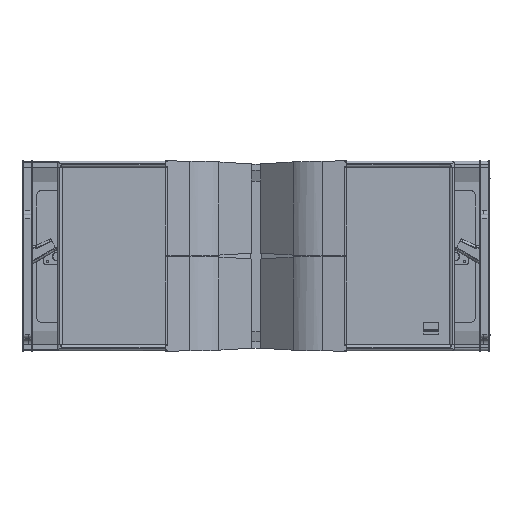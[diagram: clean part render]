
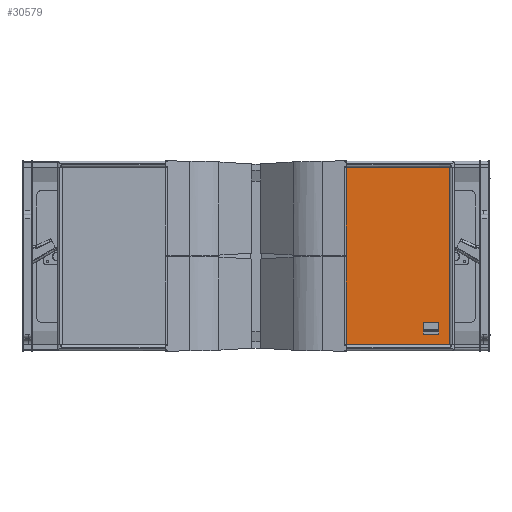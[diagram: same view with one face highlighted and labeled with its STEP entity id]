
A CAD part, top view. The second image highlights one B-rep face of the part: STEP entity #30579.
In plain terms, the highlighted planar face has unit normal (0, 0, 1) as drawn and (0, -1, 0) by its records, which use the part's own axes.
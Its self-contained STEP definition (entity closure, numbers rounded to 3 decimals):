
#1198 = DIRECTION ( 'NONE',  ( 0., 0., 1. ) ) ;
#1199 = VECTOR ( 'NONE', #1198, 1000. ) ;
#1200 = CARTESIAN_POINT ( 'NONE',  ( 759.196, 27.5, 366.616 ) ) ;
#1201 = LINE ( 'NONE', #1200, #1199 ) ;
#1202 = CARTESIAN_POINT ( 'NONE',  ( 1005., 27.5, 366.616 ) ) ;
#1203 = DIRECTION ( 'NONE',  ( 0., 0., -1. ) ) ;
#1204 = VECTOR ( 'NONE', #1203, 1000. ) ;
#1205 = CARTESIAN_POINT ( 'NONE',  ( 1005., 27.5, 366.616 ) ) ;
#1206 = LINE ( 'NONE', #1205, #1204 ) ;
#1239 = DIRECTION ( 'NONE',  ( 0., 0., -1. ) ) ;
#1240 = DIRECTION ( 'NONE',  ( 0., -1., 0. ) ) ;
#1241 = CARTESIAN_POINT ( 'NONE',  ( 884.598, 27.5, 158.158 ) ) ;
#1242 = AXIS2_PLACEMENT_3D ( 'NONE', #1241, #1240, #1239 ) ;
#1243 = PLANE ( 'NONE',  #1242 ) ;
#1244 = FACE_OUTER_BOUND ( 'NONE', #30570, .T. ) ;
#1245 = DIRECTION ( 'NONE',  ( -1., 0., 0. ) ) ;
#1246 = VECTOR ( 'NONE', #1245, 1000. ) ;
#1247 = CARTESIAN_POINT ( 'NONE',  ( 1005., 27.5, -50.3 ) ) ;
#1248 = LINE ( 'NONE', #1247, #1246 ) ;
#1249 = CARTESIAN_POINT ( 'NONE',  ( 1005., 27.5, -50.3 ) ) ;
#1250 = CARTESIAN_POINT ( 'NONE',  ( 759.196, 27.5, -50.3 ) ) ;
#1251 = CARTESIAN_POINT ( 'NONE',  ( 759.196, 27.5, 366.616 ) ) ;
#1252 = DIRECTION ( 'NONE',  ( 1., 0., 0. ) ) ;
#1253 = VECTOR ( 'NONE', #1252, 1000. ) ;
#1254 = CARTESIAN_POINT ( 'NONE',  ( 764.196, 27.5, 366.616 ) ) ;
#1255 = LINE ( 'NONE', #1254, #1253 ) ;
#30535 = EDGE_CURVE ( 'NONE', #30537, #30572, #1206, .T. ) ;
#30537 = VERTEX_POINT ( 'NONE', #1202 ) ;
#30539 = ORIENTED_EDGE ( 'NONE', *, *, #30541, .F. ) ;
#30541 = EDGE_CURVE ( 'NONE', #30567, #30549, #1201, .T. ) ;
#30547 = EDGE_CURVE ( 'NONE', #30549, #30537, #1255, .T. ) ;
#30549 = VERTEX_POINT ( 'NONE', #1251 ) ;
#30551 = ORIENTED_EDGE ( 'NONE', *, *, #30547, .F. ) ;
#30553 = ORIENTED_EDGE ( 'NONE', *, *, #30535, .F. ) ;
#30567 = VERTEX_POINT ( 'NONE', #1250 ) ;
#30570 = EDGE_LOOP ( 'NONE', ( #30576, #30553, #30551, #30539 ) ) ;
#30572 = VERTEX_POINT ( 'NONE', #1249 ) ;
#30574 = EDGE_CURVE ( 'NONE', #30572, #30567, #1248, .T. ) ;
#30576 = ORIENTED_EDGE ( 'NONE', *, *, #30574, .F. ) ;
#30579 = ADVANCED_FACE ( 'NONE', ( #1244 ), #1243, .T. ) ;
